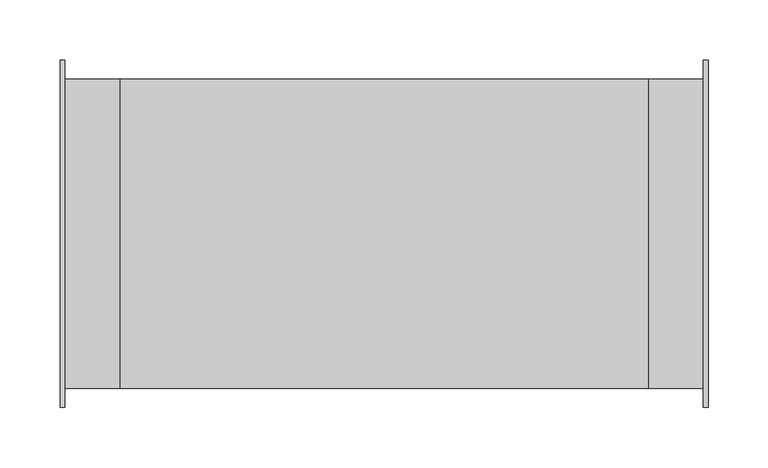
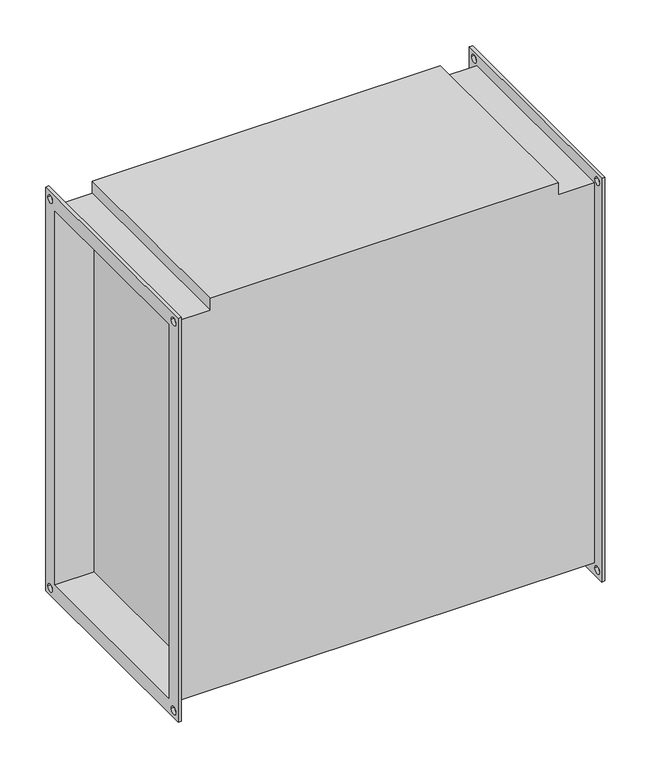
"""IFC4 building model written with IfcOpenShell, lengths in millimetres: proxy geometry, СВ_ВоздухонагревательЭлектрический_КанальныйПрямоугольный_200-1000_SPH-E : SPH-E-500x250/22,5."""

from ifc_helpers import new_model, si_unit, frame, origin, place, context, project, spatial, polyline, circle_curve, source, transform, mapped, element, save
from ifc_brep_helpers import plane_surface, revolved_surface, advanced_brep


def mechanical_equipment_9fc0d4ae(model_context):
    return source(origin(), model_context, "Body", "AdvancedBrep", [
        advanced_brep(
        [(-220.0, -129.0, 254.0), (-266.0, -129.0, 254.0), (-266.0, -129.0, -254.0), (266.0, -129.0, -254.0), (266.0, -129.0, 254.0), (220.0, -129.0, 254.0), (220.0, -129.0, 270.0), (-220.0, -129.0, 270.0), (-266.0, 129.0, -254.0), (266.0, 129.0, -254.0), (-266.0, 129.0, 254.0), (-220.0, 129.0, 254.0), (-220.0, 129.0, 270.0), (220.0, 129.0, 270.0), (220.0, 129.0, 254.0), (266.0, 129.0, 254.0), (220.0, 125.0, -250.0), (220.0, 125.0, 250.0), (220.0, -125.0, 250.0), (220.0, -125.0, -250.0), (-220.0, -125.0, 250.0), (-220.0, 125.0, 250.0), (-220.0, 125.0, -250.0), (-220.0, -125.0, -250.0), (-270.0, -145.0, 270.0), (-270.0, 145.0, 270.0), (-270.0, 145.0, -270.0), (-270.0, -145.0, -270.0), (-270.0, -125.0, 250.0), (-270.0, -125.0, -250.0), (-270.0, 125.0, -250.0), (-270.0, 125.0, 250.0), (-270.0, 130.0, 260.0), (-270.0, 140.0, 260.0), (-270.0, -140.0, 260.0), (-270.0, -130.0, 260.0), (-270.0, -140.0, -260.0), (-270.0, -130.0, -260.0), (-270.0, 130.0, -260.0), (-270.0, 140.0, -260.0), (-266.0, -145.0, 270.0), (-266.0, -145.0, -270.0), (-266.0, 145.0, -270.0), (-266.0, 145.0, 270.0), (-266.0, 140.0, 260.0), (-266.0, 130.0, 260.0), (-266.0, -130.0, 260.0), (-266.0, -140.0, 260.0), (-266.0, -130.0, -260.0), (-266.0, -140.0, -260.0), (-266.0, 140.0, -260.0), (-266.0, 130.0, -260.0), (266.0, 145.0, 270.0), (266.0, 145.0, -270.0), (266.0, -145.0, -270.0), (266.0, -145.0, 270.0), (266.0, 130.0, 260.0), (266.0, 140.0, 260.0), (266.0, -140.0, 260.0), (266.0, -130.0, 260.0), (266.0, -140.0, -260.0), (266.0, -130.0, -260.0), (266.0, 130.0, -260.0), (266.0, 140.0, -260.0), (270.0, 145.0, 270.0), (270.0, -145.0, 270.0), (270.0, -145.0, -270.0), (270.0, 145.0, -270.0), (270.0, 125.0, 250.0), (270.0, 125.0, -250.0), (270.0, -125.0, -250.0), (270.0, -125.0, 250.0), (270.0, 140.0, 260.0), (270.0, 130.0, 260.0), (270.0, -130.0, 260.0), (270.0, -140.0, 260.0), (270.0, -130.0, -260.0), (270.0, -140.0, -260.0), (270.0, 140.0, -260.0), (270.0, 130.0, -260.0)],
        [
            (0, 1),
            (1, 2),
            (2, 3),
            (3, 4),
            (4, 5),
            (5, 6),
            (6, 7),
            (7, 0),
            (2, 8),
            (8, 9),
            (9, 3),
            (10, 11),
            (11, 12),
            (12, 13),
            (13, 14),
            (14, 15),
            (15, 9),
            (8, 10),
            (0, 11),
            (10, 1),
            (13, 6),
            (5, 14),
            (16, 17),
            (17, 18),
            (18, 19),
            (19, 16),
            (7, 12),
            (20, 21),
            (21, 22),
            (22, 23),
            (23, 20),
            (4, 15),
            (24, 25),
            (25, 26),
            (26, 27),
            (27, 24),
            (28, 29),
            (29, 30),
            (30, 31),
            (31, 28),
            (32, 33, circle_curve(frame((-270.0, 135.0, 260.0), z_axis=(1.0, 0.0, 0.0), x_axis=(0.0, 1.0, 0.0)), 5.0)),
            (33, 32, circle_curve(frame((-270.0, 135.0, 260.0), z_axis=(1.0, 0.0, 0.0), x_axis=(0.0, 1.0, 0.0)), 5.0)),
            (34, 35, circle_curve(frame((-270.0, -135.0, 260.0), z_axis=(1.0, 0.0, 0.0), x_axis=(0.0, 1.0, 0.0)), 5.0)),
            (35, 34, circle_curve(frame((-270.0, -135.0, 260.0), z_axis=(1.0, 0.0, 0.0), x_axis=(0.0, 1.0, 0.0)), 5.0)),
            (36, 37, circle_curve(frame((-270.0, -135.0, -260.0), z_axis=(1.0, 0.0, 0.0), x_axis=(0.0, 1.0, 0.0)), 5.0)),
            (37, 36, circle_curve(frame((-270.0, -135.0, -260.0), z_axis=(1.0, 0.0, 0.0), x_axis=(0.0, 1.0, 0.0)), 5.0)),
            (38, 39, circle_curve(frame((-270.0, 135.0, -260.0), z_axis=(1.0, 0.0, 0.0), x_axis=(0.0, 1.0, 0.0)), 5.0)),
            (39, 38, circle_curve(frame((-270.0, 135.0, -260.0), z_axis=(1.0, 0.0, 0.0), x_axis=(0.0, 1.0, 0.0)), 5.0)),
            (40, 41),
            (41, 42),
            (42, 43),
            (43, 40),
            (44, 45, circle_curve(frame((-266.0, 135.0, 260.0), z_axis=(-1.0, 0.0, 0.0), x_axis=(0.0, 1.0, 0.0)), 5.0)),
            (45, 44, circle_curve(frame((-266.0, 135.0, 260.0), z_axis=(-1.0, 0.0, 0.0), x_axis=(0.0, 1.0, 0.0)), 5.0)),
            (46, 47, circle_curve(frame((-266.0, -135.0, 260.0), z_axis=(-1.0, 0.0, 0.0), x_axis=(0.0, 1.0, 0.0)), 5.0)),
            (47, 46, circle_curve(frame((-266.0, -135.0, 260.0), z_axis=(-1.0, 0.0, 0.0), x_axis=(0.0, 1.0, 0.0)), 5.0)),
            (48, 49, circle_curve(frame((-266.0, -135.0, -260.0), z_axis=(-1.0, 0.0, 0.0), x_axis=(0.0, 1.0, 0.0)), 5.0)),
            (49, 48, circle_curve(frame((-266.0, -135.0, -260.0), z_axis=(-1.0, 0.0, 0.0), x_axis=(0.0, 1.0, 0.0)), 5.0)),
            (50, 51, circle_curve(frame((-266.0, 135.0, -260.0), z_axis=(-1.0, 0.0, 0.0), x_axis=(0.0, 1.0, 0.0)), 5.0)),
            (51, 50, circle_curve(frame((-266.0, 135.0, -260.0), z_axis=(-1.0, 0.0, 0.0), x_axis=(0.0, 1.0, 0.0)), 5.0)),
            (27, 41),
            (40, 24),
            (26, 42),
            (25, 43),
            (52, 53),
            (53, 54),
            (54, 55),
            (55, 52),
            (56, 57, circle_curve(frame((266.0, 135.0, 260.0), z_axis=(1.0, 0.0, 0.0), x_axis=(0.0, 1.0, 0.0)), 5.0)),
            (57, 56, circle_curve(frame((266.0, 135.0, 260.0), z_axis=(1.0, 0.0, 0.0), x_axis=(0.0, 1.0, 0.0)), 5.0)),
            (58, 59, circle_curve(frame((266.0, -135.0, 260.0), z_axis=(1.0, 0.0, 0.0), x_axis=(0.0, 1.0, 0.0)), 5.0)),
            (59, 58, circle_curve(frame((266.0, -135.0, 260.0), z_axis=(1.0, 0.0, 0.0), x_axis=(0.0, 1.0, 0.0)), 5.0)),
            (60, 61, circle_curve(frame((266.0, -135.0, -260.0), z_axis=(1.0, 0.0, 0.0), x_axis=(0.0, 1.0, 0.0)), 5.0)),
            (61, 60, circle_curve(frame((266.0, -135.0, -260.0), z_axis=(1.0, 0.0, 0.0), x_axis=(0.0, 1.0, 0.0)), 5.0)),
            (62, 63, circle_curve(frame((266.0, 135.0, -260.0), z_axis=(1.0, 0.0, 0.0), x_axis=(0.0, 1.0, 0.0)), 5.0)),
            (63, 62, circle_curve(frame((266.0, 135.0, -260.0), z_axis=(1.0, 0.0, 0.0), x_axis=(0.0, 1.0, 0.0)), 5.0)),
            (64, 65),
            (65, 66),
            (66, 67),
            (67, 64),
            (68, 69),
            (69, 70),
            (70, 71),
            (71, 68),
            (72, 73, circle_curve(frame((270.0, 135.0, 260.0), z_axis=(-1.0, 0.0, 0.0), x_axis=(0.0, 1.0, 0.0)), 5.0)),
            (73, 72, circle_curve(frame((270.0, 135.0, 260.0), z_axis=(-1.0, 0.0, 0.0), x_axis=(0.0, 1.0, 0.0)), 5.0)),
            (74, 75, circle_curve(frame((270.0, -135.0, 260.0), z_axis=(-1.0, 0.0, 0.0), x_axis=(0.0, 1.0, 0.0)), 5.0)),
            (75, 74, circle_curve(frame((270.0, -135.0, 260.0), z_axis=(-1.0, 0.0, 0.0), x_axis=(0.0, 1.0, 0.0)), 5.0)),
            (76, 77, circle_curve(frame((270.0, -135.0, -260.0), z_axis=(-1.0, 0.0, 0.0), x_axis=(0.0, 1.0, 0.0)), 5.0)),
            (77, 76, circle_curve(frame((270.0, -135.0, -260.0), z_axis=(-1.0, 0.0, 0.0), x_axis=(0.0, 1.0, 0.0)), 5.0)),
            (78, 79, circle_curve(frame((270.0, 135.0, -260.0), z_axis=(-1.0, 0.0, 0.0), x_axis=(0.0, 1.0, 0.0)), 5.0)),
            (79, 78, circle_curve(frame((270.0, 135.0, -260.0), z_axis=(-1.0, 0.0, 0.0), x_axis=(0.0, 1.0, 0.0)), 5.0)),
            (55, 65),
            (64, 52),
            (54, 66),
            (53, 67),
            (31, 21),
            (20, 28),
            (30, 22),
            (29, 23),
            (68, 17),
            (16, 69),
            (19, 70),
            (18, 71),
            (32, 45),
            (44, 33),
            (56, 73),
            (72, 57),
            (34, 47),
            (46, 35),
            (58, 75),
            (74, 59),
            (36, 49),
            (48, 37),
            (60, 77),
            (76, 61),
            (38, 51),
            (50, 39),
            (62, 79),
            (78, 63),
        ],
        [
            plane_surface(frame((-220.0, -129.0, 254.0), z_axis=(0.0, -1.0, 0.0), x_axis=(-1.0, 0.0, 0.0))),
            plane_surface(frame((-220.0, -129.0, -254.0), z_axis=(0.0, 0.0, -1.0), x_axis=(-1.0, 0.0, 0.0))),
            plane_surface(frame((-220.0, 129.0, -254.0), z_axis=(0.0, 1.0, 0.0), x_axis=(-1.0, 0.0, 0.0))),
            plane_surface(frame((-220.0, 129.0, 254.0), z_axis=(0.0, 0.0, 1.0), x_axis=(-1.0, 0.0, 0.0))),
            plane_surface(frame((220.0, -129.0, 270.0), z_axis=(1.0, 0.0, 0.0), x_axis=(0.0, 0.0, -1.0))),
            plane_surface(frame((-220.0, -129.0, 270.0), z_axis=(-1.0, 0.0, 0.0), x_axis=(0.0, 0.0, 1.0))),
            plane_surface(frame((220.0, 129.0, 270.0), z_axis=(0.0, 0.0, 1.0), x_axis=(-1.0, 0.0, 0.0))),
            plane_surface(frame((266.0, 129.0, 254.0), z_axis=(0.0, 0.0, 1.0), x_axis=(-1.0, 0.0, 0.0))),
            plane_surface(frame((-270.0, -145.0, 270.0), z_axis=(-1.0, 0.0, 0.0), x_axis=(0.0, 0.0, 1.0))),
            plane_surface(frame((-266.0, -145.0, 270.0), z_axis=(1.0, 0.0, 0.0), x_axis=(0.0, 0.0, -1.0))),
            plane_surface(frame((-266.0, -145.0, 270.0), z_axis=(0.0, -1.0, 0.0), x_axis=(-1.0, 0.0, 0.0))),
            plane_surface(frame((-266.0, -145.0, -270.0), z_axis=(0.0, 0.0, -1.0), x_axis=(-1.0, 0.0, 0.0))),
            plane_surface(frame((-266.0, 145.0, -270.0), z_axis=(0.0, 1.0, 0.0), x_axis=(-1.0, 0.0, 0.0))),
            plane_surface(frame((-266.0, 145.0, 270.0), z_axis=(0.0, 0.0, 1.0), x_axis=(-1.0, 0.0, 0.0))),
            plane_surface(frame((266.0, 125.0, -250.0), z_axis=(-1.0, 0.0, 0.0), x_axis=(0.0, 0.0, 1.0))),
            plane_surface(frame((270.0, 125.0, -250.0), z_axis=(1.0, 0.0, 0.0), x_axis=(0.0, 0.0, -1.0))),
            plane_surface(frame((270.0, 145.0, 270.0), z_axis=(0.0, 0.0, 1.0), x_axis=(-1.0, 0.0, 0.0))),
            plane_surface(frame((270.0, -145.0, 270.0), z_axis=(0.0, -1.0, 0.0), x_axis=(-1.0, 0.0, 0.0))),
            plane_surface(frame((270.0, -145.0, -270.0), z_axis=(0.0, 0.0, -1.0), x_axis=(-1.0, 0.0, 0.0))),
            plane_surface(frame((270.0, 145.0, -270.0), z_axis=(0.0, 1.0, 0.0), x_axis=(-1.0, 0.0, 0.0))),
            plane_surface(frame((-266.0, -125.0, 250.0), z_axis=(0.0, 0.0, -1.0), x_axis=(-1.0, 0.0, 0.0))),
            plane_surface(frame((-266.0, 125.0, 250.0), z_axis=(0.0, -1.0, 0.0), x_axis=(-1.0, 0.0, 0.0))),
            plane_surface(frame((-266.0, 125.0, -250.0), z_axis=(0.0, 0.0, 1.0), x_axis=(-1.0, 0.0, 0.0))),
            plane_surface(frame((-266.0, -125.0, -250.0), z_axis=(0.0, 1.0, 0.0), x_axis=(-1.0, 0.0, 0.0))),
            plane_surface(frame((270.0, 125.0, 250.0), z_axis=(0.0, -1.0, 0.0), x_axis=(-1.0, 0.0, 0.0))),
            plane_surface(frame((270.0, 125.0, -250.0), z_axis=(0.0, 0.0, 1.0), x_axis=(-1.0, 0.0, 0.0))),
            plane_surface(frame((270.0, -125.0, -250.0), z_axis=(0.0, 1.0, 0.0), x_axis=(-1.0, 0.0, 0.0))),
            plane_surface(frame((270.0, -125.0, 250.0), z_axis=(0.0, 0.0, -1.0), x_axis=(-1.0, 0.0, 0.0))),
            revolved_surface(polyline([(-266.0, 140.0, 260.0), (-270.0, 140.0, 260.0)]), (-270.0, 135.0, 260.0), (1.0, 0.0, 0.0)),
            revolved_surface(polyline([(270.0, 140.0, 260.0), (266.0, 140.0, 260.0)]), (-270.0, 135.0, 260.0), (1.0, 0.0, 0.0)),
            revolved_surface(polyline([(-266.0, -130.0, 260.0), (-270.0, -130.0, 260.0)]), (0.0, -135.0, 260.0), (1.0, 0.0, 0.0)),
            revolved_surface(polyline([(270.0, -130.0, 260.0), (266.0, -130.0, 260.0)]), (0.0, -135.0, 260.0), (1.0, 0.0, 0.0)),
            revolved_surface(polyline([(-266.0, -130.0, -260.0), (-270.0, -130.0, -260.0)]), (0.0, -135.0, -260.0), (1.0, 0.0, 0.0)),
            revolved_surface(polyline([(270.0, -130.0, -260.0), (266.0, -130.0, -260.0)]), (0.0, -135.0, -260.0), (1.0, 0.0, 0.0)),
            revolved_surface(polyline([(-266.0, 140.0, -260.0), (-270.0, 140.0, -260.0)]), (0.0, 135.0, -260.0), (1.0, 0.0, 0.0)),
            revolved_surface(polyline([(270.0, 140.0, -260.0), (266.0, 140.0, -260.0)]), (0.0, 135.0, -260.0), (1.0, 0.0, 0.0)),
        ],
        [
            (0, [[1, 2, 3, 4, 5, 6, 7, 8]]),
            (1, [[-3, 9, 10, 11]]),
            (2, [[12, 13, 14, 15, 16, 17, -10, 18]]),
            (3, [[-1, 19, -12, 20]]),
            (4, [[21, -6, 22, -15]]),
            (4, [[23, 24, 25, 26]]),
            (5, [[27, -13, -19, -8]]),
            (5, [[28, 29, 30, 31]]),
            (6, [[-21, -14, -27, -7]]),
            (7, [[-5, 32, -16, -22]]),
            (8, [[33, 34, 35, 36], [37, 38, 39, 40], [41, 42], [43, 44], [45, 46], [47, 48]]),
            (9, [[49, 50, 51, 52], [-2, -20, -18, -9], [53, 54], [55, 56], [57, 58], [59, 60]]),
            (10, [[-36, 61, -49, 62]]),
            (11, [[-35, 63, -50, -61]]),
            (12, [[-34, 64, -51, -63]]),
            (13, [[-33, -62, -52, -64]]),
            (14, [[65, 66, 67, 68], [-4, -11, -17, -32], [69, 70], [71, 72], [73, 74], [75, 76]]),
            (15, [[77, 78, 79, 80], [81, 82, 83, 84], [85, 86], [87, 88], [89, 90], [91, 92]]),
            (16, [[-68, 93, -77, 94]]),
            (17, [[-67, 95, -78, -93]]),
            (18, [[-66, 96, -79, -95]]),
            (19, [[-65, -94, -80, -96]]),
            (20, [[-40, 97, -28, 98]]),
            (21, [[-39, 99, -29, -97]]),
            (22, [[-38, 100, -30, -99]]),
            (23, [[-37, -98, -31, -100]]),
            (24, [[-81, 101, -23, 102]]),
            (25, [[-82, -102, -26, 103]]),
            (26, [[-83, -103, -25, 104]]),
            (27, [[-101, -84, -104, -24]]),
            (28, [[105, -53, 106, -41]]),
            (29, [[107, -85, 108, -69]]),
            (28, [[-105, -42, -106, -54]]),
            (29, [[-107, -70, -108, -86]]),
            (30, [[109, -55, 110, -43]]),
            (31, [[111, -87, 112, -71]]),
            (30, [[-109, -44, -110, -56]]),
            (31, [[-111, -72, -112, -88]]),
            (32, [[113, -57, 114, -45]]),
            (33, [[115, -89, 116, -73]]),
            (32, [[-113, -46, -114, -58]]),
            (33, [[-115, -74, -116, -90]]),
            (34, [[117, -59, 118, -47]]),
            (35, [[119, -91, 120, -75]]),
            (34, [[-117, -48, -118, -60]]),
            (35, [[-119, -76, -120, -92]]),
        ],
    ),
    ])


if __name__ == "__main__":
    model = new_model("IFC4")
    model_context = context("Model", 3, world=origin())
    ifc_project = project(units=[si_unit("LENGTHUNIT", "METRE", prefix="MILLI")], contexts=[model_context])
    site = spatial("IfcSite", under=ifc_project)
    building = spatial("IfcBuilding", under=site)
    placement = place(None, origin())
    mechanical_equipment_shape = mechanical_equipment_9fc0d4ae(model_context)
    element("IfcBuildingElementProxy", 1, Name="СВ_ВоздухонагревательЭлектрический_КанальныйПрямоугольный_200-1000_SPH-E : SPH-E-500x250/22,5", ObjectType="СВ_ВоздухонагревательЭлектрический_КанальныйПрямоугольный_200-1000_SPH-E : SPH-E-500x250/22,5", at=placement, inside=building, context=model_context, shape_type="MappedRepresentation", body=[
        mapped(mechanical_equipment_shape, transform((0.0, 0.0, 0.0), x_axis=(1.0, 0.0, 0.0), y_axis=(0.0, 1.0, 0.0), z_axis=(0.0, 0.0, 1.0))),
    ])
    save(model, "model.ifc")
